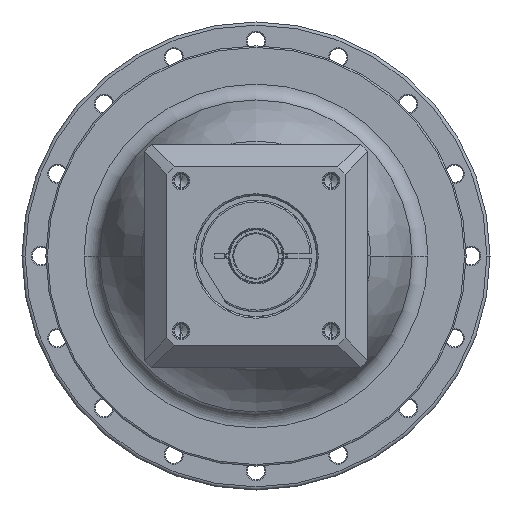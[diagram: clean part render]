
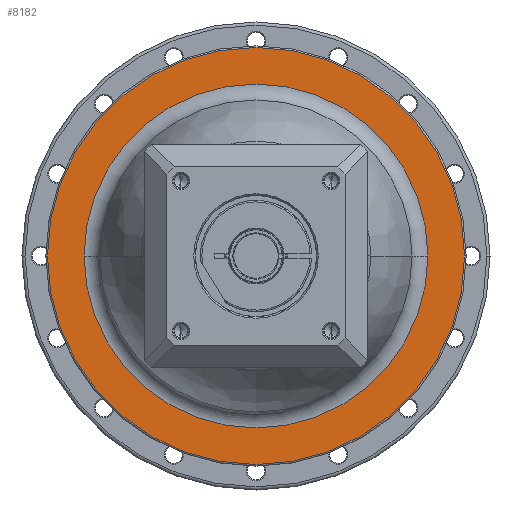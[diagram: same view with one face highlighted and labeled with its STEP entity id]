
A CAD part, left-side view. The second image highlights one B-rep face of the part: STEP entity #8182.
In plain terms, the highlighted planar face has unit normal (-1, 0, 0) as drawn and (1, 0, 0) by its records, which use the part's own axes.
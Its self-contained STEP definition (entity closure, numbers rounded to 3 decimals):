
#7722=CARTESIAN_POINT('',(-39.,0.,0.));
#7723=DIRECTION('',(-1.,0.,0.));
#7724=DIRECTION('',(0.,1.,0.));
#7725=AXIS2_PLACEMENT_3D('',#7722,#7723,#7724);
#7732=CARTESIAN_POINT('',(-39.,0.,0.));
#7733=DIRECTION('',(1.,0.,0.));
#7734=DIRECTION('',(0.,1.,0.));
#7735=AXIS2_PLACEMENT_3D('',#7732,#7733,#7734);
#7737=CARTESIAN_POINT('',(-39.,0.,0.));
#7738=DIRECTION('',(-1.,0.,0.));
#7739=DIRECTION('',(0.,-1.,0.));
#7740=AXIS2_PLACEMENT_3D('',#7737,#7738,#7739);
#7742=CARTESIAN_POINT('',(-39.,0.,0.));
#7743=DIRECTION('',(-1.,0.,0.));
#7744=DIRECTION('',(0.,1.,0.));
#7745=AXIS2_PLACEMENT_3D('',#7742,#7743,#7744);
#7867=CARTESIAN_POINT('',(-39.,-65.5,0.));
#7868=CARTESIAN_POINT('',(-39.,65.5,0.));
#7869=VERTEX_POINT('',#7867);
#7870=VERTEX_POINT('',#7868);
#7895=CARTESIAN_POINT('',(-39.,54.,0.));
#7897=VERTEX_POINT('',#7895);
#7899=CARTESIAN_POINT('',(-39.,-54.,0.));
#7901=VERTEX_POINT('',#7899);
#8167=CARTESIAN_POINT('',(-39.,0.,0.));
#8168=DIRECTION('',(1.,0.,0.));
#8169=DIRECTION('',(0.,-1.,0.));
#8170=AXIS2_PLACEMENT_3D('',#8167,#8168,#8169);
#8171=PLANE('',#8170);
#8173=ORIENTED_EDGE('',*,*,#8172,.T.);
#8175=ORIENTED_EDGE('',*,*,#8174,.T.);
#8176=EDGE_LOOP('',(#8173,#8175));
#8177=FACE_OUTER_BOUND('',#8176,.F.);
#8178=ORIENTED_EDGE('',*,*,#8162,.T.);
#8179=ORIENTED_EDGE('',*,*,#8146,.F.);
#8180=EDGE_LOOP('',(#8178,#8179));
#8181=FACE_BOUND('',#8180,.F.);
#8182=ADVANCED_FACE('',(#8177,#8181),#8171,.T.);
#7726=CIRCLE('',#7725,54.);
#7736=CIRCLE('',#7735,54.);
#7741=CIRCLE('',#7740,65.5);
#7746=CIRCLE('',#7745,65.5);
#8146=EDGE_CURVE('',#7897,#7901,#7726,.T.);
#8162=EDGE_CURVE('',#7897,#7901,#7736,.T.);
#8172=EDGE_CURVE('',#7869,#7870,#7741,.T.);
#8174=EDGE_CURVE('',#7870,#7869,#7746,.T.);
